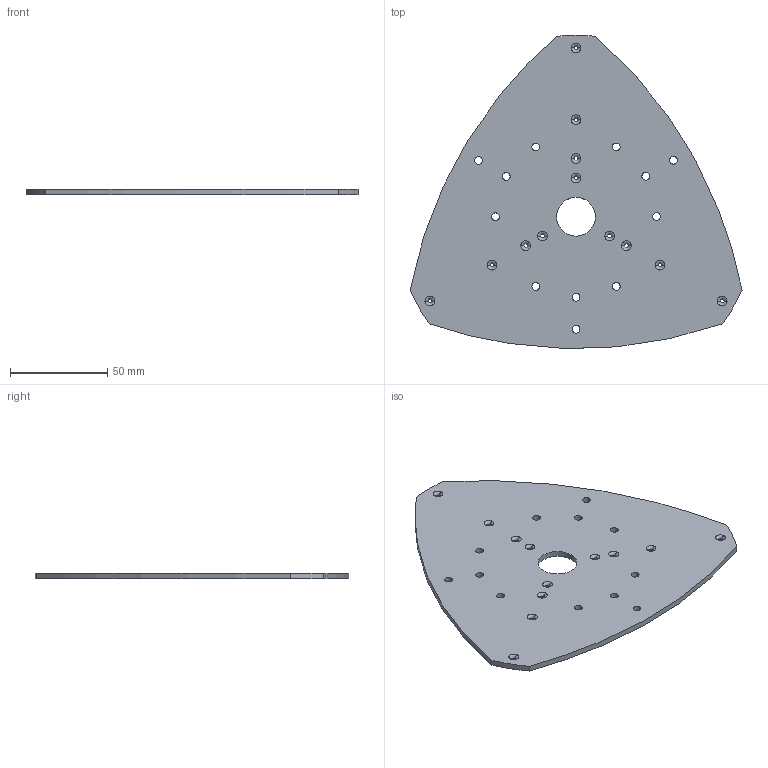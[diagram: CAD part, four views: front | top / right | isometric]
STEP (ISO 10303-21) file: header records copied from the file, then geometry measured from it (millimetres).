
FILE_DESCRIPTION (( 'STEP AP214' ), '1' );
FILE_NAME ('郯路裔啣.STEP', '2025-07-28T06:26:48', ( '' ), ( '' ), 'SwSTEP 2.0', 'SolidWorks 2025', '' );
FILE_SCHEMA (( 'AUTOMOTIVE_DESIGN' ));
Length unit declared in the file: millimetre
Products named in the file (1): 阻隔盖板
Bounding box: 171.02 x 161.37 x 3 mm (x, y, z)
Volume: 55952 mm3; surface area: 39725.5 mm2
Topology: 1 solids, 1 shells, 82 faces, 216 edges, 136 vertices
Faces by surface type: torus 48, cylinder 29, bspline 3, plane 2
Entity records: 2755 total; most frequent: DIRECTION 548, CARTESIAN_POINT 462, ORIENTED_EDGE 432, AXIS2_PLACEMENT_3D 258, EDGE_CURVE 216, CIRCLE 178, VERTEX_POINT 136, EDGE_LOOP 132
